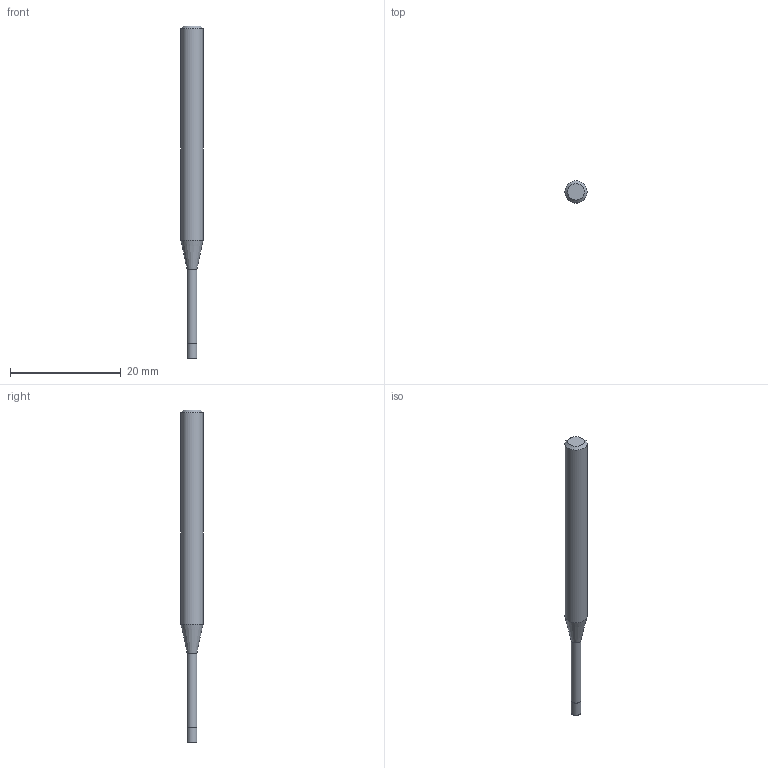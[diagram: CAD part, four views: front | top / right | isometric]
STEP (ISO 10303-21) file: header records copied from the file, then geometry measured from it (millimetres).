
FILE_DESCRIPTION((''),'2;1');
FILE_NAME('C:\Users\nsx150\AppData\Local\Temp\Mastercam 2021\17T8Q8S9EB\TEMP.step','2021-04-21T14:27:25',(''),(''),'STEP Write','Mastercam 2021 ... CNC Software, Inc.','');
FILE_SCHEMA(('AUTOMOTIVE_DESIGN'));
Length unit declared in the file: millimetre
Products named in the file (1): None
Bounding box: 4 x 4 x 60 mm (x, y, z)
Volume: 559.9 mm3; surface area: 639.7 mm2
Topology: 2 solids, 2 shells, 9 faces, 12 edges, 7 vertices
Faces by surface type: plane 4, cylinder 3, cone 2
Full cylindrical faces by diameter (mm): 1.75 x1, 1.8 x1, 4 x1
Entity records: 211 total; most frequent: DIRECTION 36, CARTESIAN_POINT 25, AXIS2_PLACEMENT_3D 18, ORIENTED_EDGE 14, EDGE_LOOP 14, STYLED_ITEM 12, ADVANCED_FACE 9, FACE_BOUND 8
